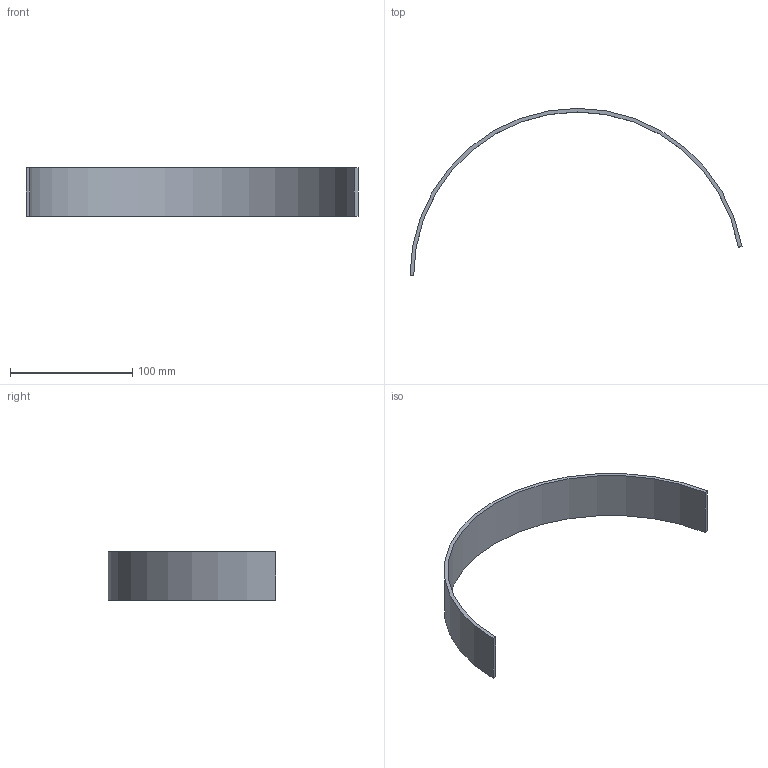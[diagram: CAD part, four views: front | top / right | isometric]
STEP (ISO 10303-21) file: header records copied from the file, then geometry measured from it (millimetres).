
FILE_DESCRIPTION(('Open CASCADE Model'),'2;1');
FILE_NAME('Open CASCADE Shape Model','2026-10-19T10:09:20',('Author'),( 'Open CASCADE'),'Open CASCADE STEP processor 8.0','Open CASCADE 8.0' ,'Unknown');
FILE_SCHEMA(('AUTOMOTIVE_DESIGN { 1 0 10303 214 1 1 1 1 }'));
Length unit declared in the file: millimetre
Products named in the file (1): MS03_SECTOR_170deg_ID268_t3_H40_P05 90
Bounding box: 271.92 x 137 x 40 mm (x, y, z)
Volume: 48244.4 mm3; surface area: 34815.1 mm2
Topology: 1 solids, 1 shells, 6 faces, 12 edges, 8 vertices
Faces by surface type: plane 4, cylinder 2
Entity records: 338 total; most frequent: CARTESIAN_POINT 75, DIRECTION 50, LINE 28, VECTOR 28, ORIENTED_EDGE 24, PCURVE 24, DEFINITIONAL_REPRESENTATION 24, EDGE_CURVE 12
